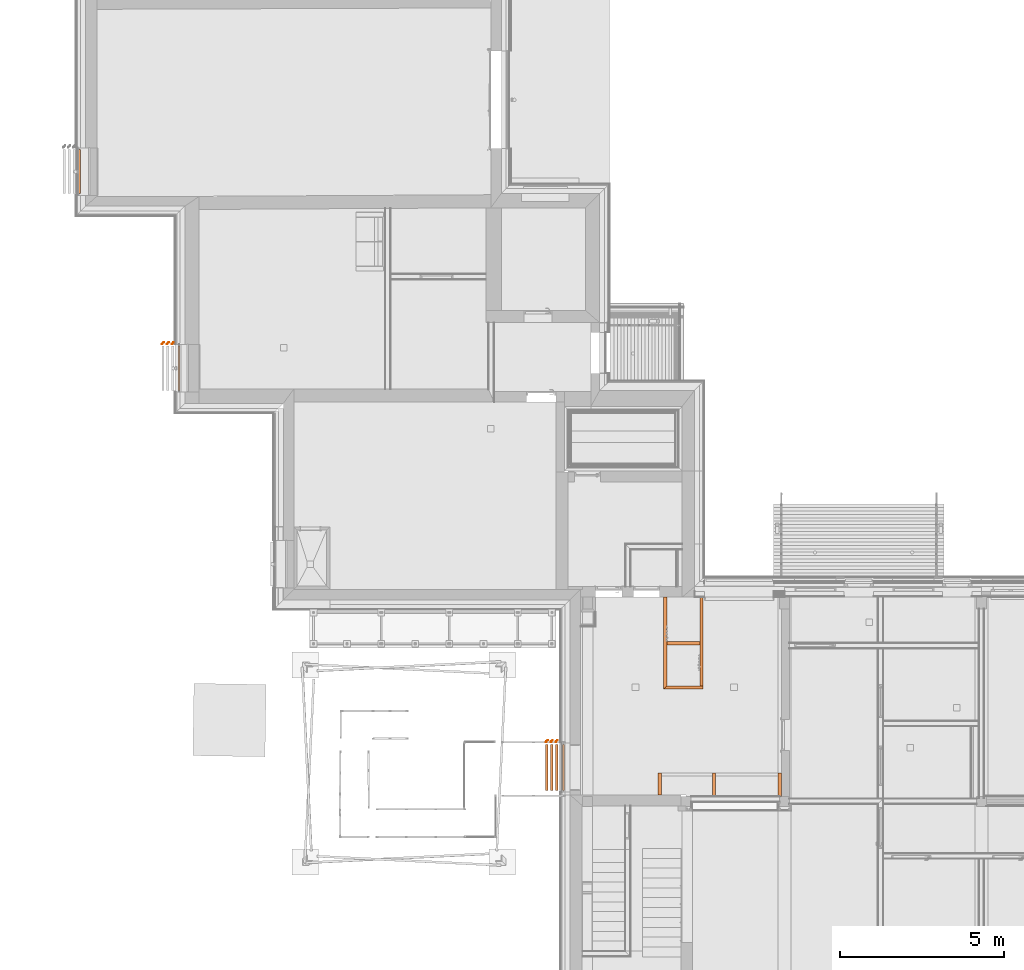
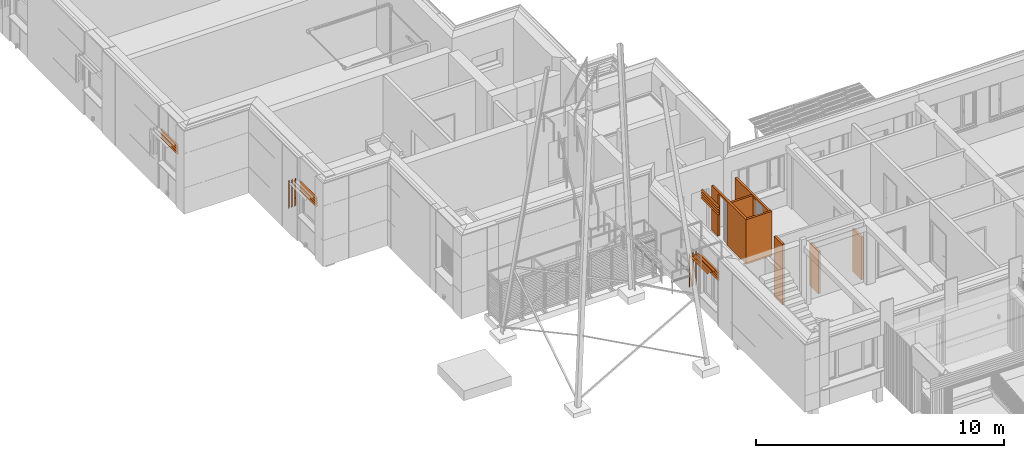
# One storey, part 350 of 418: 14 proxies, 2 openings.
"""IFC2X3 building model written with IfcOpenShell, lengths in millimetres."""

from ifc_helpers import new_model, entity, si_unit, converted_unit, derived_unit, money_unit, direction, frame, origin_with_axes, origin_2d_with_axis, place, context, subcontext, project, spatial, polyline, rectangle, outline, extrude, faceted_brep, source, transform, mapped, material, type_object, element, save


model = new_model("IFC2X3")

# Units and contexts
model_context = context("Model", 3, precision=0.01, world=origin_with_axes(), true_north=direction((0.0, 1.0)))
body_context = subcontext(model_context, "Body", "Model", "MODEL_VIEW")
ifc_project = project(units=[si_unit("LENGTHUNIT", "METRE", prefix="MILLI"), si_unit("AREAUNIT", "SQUARE_METRE"), si_unit("VOLUMEUNIT", "CUBIC_METRE"), converted_unit("PLANEANGLEUNIT", "DEGREE", entity("IfcPlaneAngleMeasure", 0.0174532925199), si_unit("PLANEANGLEUNIT", "RADIAN"), dimensions=[0, 0, 0, 0, 0, 0, 0]), si_unit("SOLIDANGLEUNIT", "STERADIAN"), money_unit("EUR"), converted_unit("TIMEUNIT", "Year", entity("IfcTimeMeasure", 31556926.0), si_unit("TIMEUNIT", "SECOND"), dimensions=[0, 0, 1, 0, 0, 0, 0]), si_unit("MASSUNIT", "GRAM", prefix="KILO"), si_unit("THERMODYNAMICTEMPERATUREUNIT", "DEGREE_CELSIUS"), si_unit("LUMINOUSINTENSITYUNIT", "LUMEN"), si_unit("ENERGYUNIT", "JOULE", prefix="MEGA"), derived_unit("THERMALCONDUCTANCEUNIT", [(si_unit("POWERUNIT", "WATT"), 1), (si_unit("LENGTHUNIT", "METRE"), -1), (si_unit("THERMODYNAMICTEMPERATUREUNIT", "KELVIN"), -1)]), derived_unit("SPECIFICHEATCAPACITYUNIT", [(si_unit("ENERGYUNIT", "JOULE"), 1), (si_unit("MASSUNIT", "GRAM", prefix="KILO"), -1), (si_unit("THERMODYNAMICTEMPERATUREUNIT", "KELVIN"), -1)]), derived_unit("MASSDENSITYUNIT", [(si_unit("MASSUNIT", "GRAM", prefix="KILO"), 1), (si_unit("VOLUMEUNIT", "CUBIC_METRE"), -1)])], contexts=[model_context])

# Site, building, storey
site_placement = place(None, origin_with_axes())
site = spatial("IfcSite", under=ifc_project, at=site_placement, Name="Paldiski mnt 245/1, Tallinn, Harjumaa", CompositionType="COMPLEX")
building_placement = place(site_placement, origin_with_axes())
building = spatial("IfcBuilding", under=site, at=building_placement, Name="RKAS Hoone üldnimetus (kasutust iseloomustav) -> IFC Project Manager -> SOLIBRI", CompositionType="ELEMENT")
storey_placement = place(building_placement, origin_with_axes())
storey = spatial("IfcBuildingStorey", under=building, at=storey_placement, Name="Esimene korrus", CompositionType="ELEMENT", Elevation=0.0)

# Proxies
ifc_material = material(Name="Puit - Konstruktsioon")
building_element_proxy_type_1 = type_object("IfcBuildingElementProxyType", Name="Puit - Konstruktsioon 100", PredefinedType="NOTDEFINED")
proxy_1_placement = place(storey_placement, frame((-45291.82036, -6130.08408706, 0.0), z_axis=(0.0, 0.0, 1.0), x_axis=(0.0, 1.0, 0.0)))
element("IfcBuildingElementProxy", 1, at=proxy_1_placement, inside=storey, type_object=building_element_proxy_type_1, material=ifc_material, Name="SM-3", context=body_context, shape_type="SweptSolid", body=[
    extrude(outline(polyline([(0.0, -100.0), (670.06255987, -100.0), (670.06255987, 0.0), (0.0, 0.0), (0.0, -100.0)])), origin_with_axes(), (0.0, 0.0, 1.0), 3000.0),
])
proxy_2_placement = place(storey_placement, frame((-43537.214149, -6180.0, 0.0), z_axis=(0.0, 0.0, 1.0), x_axis=(0.0, 1.0, 0.0)))
element("IfcBuildingElementProxy", 2, at=proxy_2_placement, inside=storey, type_object=building_element_proxy_type_1, material=ifc_material, Name="SM-3", context=body_context, shape_type="SweptSolid", body=[
    extrude(outline(polyline([(0.0, 0.0), (719.978467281, 0.0), (719.978467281, 100.0), (0.0, 100.0), (0.0, 0.0)])), origin_with_axes(), (0.0, 0.0, 1.0), 2100.0),
])
proxy_3_placement = place(storey_placement, frame((-41539.9999633, -6180.00001833, 0.0), z_axis=(0.0, 0.0, 1.0), x_axis=(-2.06862931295e-08, 1.0, 0.0)))
element("IfcBuildingElementProxy", 3, at=proxy_3_placement, inside=storey, type_object=building_element_proxy_type_1, material=ifc_material, Name="SM-3", context=body_context, shape_type="SweptSolid", body=[
    extrude(outline(polyline([(0.0, 0.0), (719.978499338, 0.0), (719.978499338, 100.0), (0.0, 100.0), (0.0, 0.0)])), origin_with_axes(), (0.0, 0.0, 1.0), 2100.0),
])
proxy_4_placement = place(storey_placement, frame((-43922.394867, -1460.0, 0.0), z_axis=(0.0, 0.0, 1.0), x_axis=(-1.0, 0.0, 0.0)))
element("IfcBuildingElementProxy", 4, at=proxy_4_placement, inside=storey, type_object=building_element_proxy_type_1, material=ifc_material, Name="SS-63", context=body_context, shape_type="SweptSolid", body=[
    extrude(outline(polyline([(100.0, 0.0), (1100.0, 0.0), (1100.0, 100.0), (100.0, 100.0), (100.0, 0.0)])), origin_with_axes(), (0.0, 0.0, 1.0), 2200.0),
])

# Proxy, opening
proxy_5_placement = place(storey_placement, frame((-43922.394867, -2810.0, 0.0), z_axis=(0.0, 0.0, 1.0), x_axis=(0.0, 1.0, 0.0)))
proxy_5 = element("IfcBuildingElementProxy", 5, at=proxy_5_placement, inside=storey, type_object=building_element_proxy_type_1, material=ifc_material, Name="SM-3", context=body_context, shape_type="SweptSolid", body=[
    extrude(outline(polyline([(0.0, 0.0), (2699.29055164, 0.0), (2699.29055164, 100.0), (0.0, 100.0), (0.0, 0.0)])), origin_with_axes(), (0.0, 0.0, 1.0), 2200.0),
])
opening_1_placement = place(proxy_5_placement, frame((858.298492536, 0.0, 0.0), z_axis=(0.0, 0.0, 1.0), x_axis=(1.0, 0.0, 0.0)))
element("IfcOpeningElement", 6, at=opening_1_placement, cuts=proxy_5, Name="AVA", context=body_context, shape_type="SweptSolid", body=[
    extrude(rectangle(XDim=750.0, YDim=2100.0, at=origin_2d_with_axis()), frame((0.0, 100.0, 1050.0), z_axis=(0.0, -1.0, 0.0), x_axis=(1.0, 0.0, 0.0)), (0.0, 0.0, -1.0), 100.0),
    extrude(rectangle(XDim=750.0, YDim=2100.0, at=origin_2d_with_axis()), frame((0.0, 100.0, 1050.0), z_axis=(0.0, 1.0, 0.0), x_axis=(1.0, 0.0, 0.0)), (0.0, 0.0, -1.0), 100.0),
])

# Proxy
proxy_6_placement = place(storey_placement, frame((-45122.394867, -2910.0, 0.0), z_axis=(0.0, 0.0, 1.0), x_axis=(1.0, 0.0, 0.0)))
element("IfcBuildingElementProxy", 7, at=proxy_6_placement, inside=storey, type_object=building_element_proxy_type_1, material=ifc_material, Name="SM-3", context=body_context, shape_type="SweptSolid", body=[
    extrude(outline(polyline([(0.0, 0.0), (1200.0, 0.0), (1200.0, 100.0), (100.0, 100.0), (0.0, 0.0)])), origin_with_axes(), (0.0, 0.0, 1.0), 2200.0),
])

# Proxy, opening
proxy_7_placement = place(storey_placement, frame((-45122.394867, -109.999999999, 0.0), z_axis=(0.0, 0.0, 1.0), x_axis=(0.0, -1.0, 0.0)))
proxy_7 = element("IfcBuildingElementProxy", 8, at=proxy_7_placement, inside=storey, type_object=building_element_proxy_type_1, material=ifc_material, Name="SS-59", context=body_context, shape_type="SweptSolid", body=[
    extrude(outline(polyline([(0.0, 0.0), (2800.0, 0.0), (2700.0, 100.0), (0.0, 100.0), (0.0, 0.0)])), origin_with_axes(), (0.0, 0.0, 1.0), 2200.0),
])
opening_2_placement = place(proxy_7_placement, frame((883.082475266, 0.0, 0.0), z_axis=(0.0, 0.0, 1.0), x_axis=(1.0, 0.0, 0.0)))
element("IfcOpeningElement", 9, at=opening_2_placement, cuts=proxy_7, Name="AVA", context=body_context, shape_type="SweptSolid", body=[
    extrude(rectangle(XDim=750.0, YDim=2100.0, at=origin_2d_with_axis()), frame((0.0, 100.0, 1050.0), z_axis=(0.0, -1.0, 0.0), x_axis=(1.0, 0.0, 0.0)), (0.0, 0.0, -1.0), 100.0),
    extrude(rectangle(XDim=750.0, YDim=2100.0, at=origin_2d_with_axis()), frame((0.0, 100.0, 1050.0), z_axis=(0.0, 1.0, 0.0), x_axis=(1.0, 0.0, 0.0)), (0.0, 0.0, -1.0), 100.0),
])

# Proxies
building_element_proxy_type_2 = type_object("IfcBuildingElementProxyType", Name="Solar Shade Straight 17", PredefinedType="NOTDEFINED")
shared_shape_1 = source(origin_with_axes(), body_context, "Body", "Brep", [
    faceted_brep([(-50.0, -24.0727513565, 78.7867965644), (-1399.99991183, -24.0727513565, 78.7867965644), (-1399.99991183, -34.6793530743, 91.7504208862), (-50.0, -34.6793530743, 91.7504208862), (-50.0, -14.6446609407, 64.6446609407), (-1399.99991183, -14.6446609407, 64.6446609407), (-1399.99991183, -28.7867965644, 74.0727513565), (-1399.99991183, -41.7504208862, 84.6793530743), (-1399.99991183, -65.3206469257, 108.249579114), (-1399.99991183, -75.9272486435, 121.213203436), (-1399.99991183, -85.3553390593, 135.355339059), (-1399.99991183, -71.2132034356, 125.927248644), (-1399.99991183, -58.2495791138, 115.320646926), (-50.0, -58.2495791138, 115.320646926), (-50.0, -71.2132034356, 125.927248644), (-50.0, -85.3553390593, 135.355339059), (-50.0, -75.9272486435, 121.213203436), (-50.0, -65.3206469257, 108.249579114), (-50.0, -41.7504208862, 84.6793530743), (-50.0, -28.7867965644, 74.0727513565)], [[[0, 1, 2, 3]], [[4, 5, 1, 0]], [[1, 5, 6, 7, 8, 9, 10, 11, 12, 2]], [[3, 2, 12, 13]], [[0, 3, 13, 14, 15, 16, 17, 18, 19, 4]], [[19, 6, 5, 4]], [[18, 7, 6, 19]], [[17, 8, 7, 18]], [[16, 9, 8, 17]], [[15, 10, 9, 16]], [[14, 11, 10, 15]], [[13, 12, 11, 14]]]),
    faceted_brep([(-50.0, -24.0727513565, 203.786796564), (-1399.99991183, -24.0727513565, 203.786796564), (-1399.99991183, -34.6793530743, 216.750420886), (-50.0, -34.6793530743, 216.750420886), (-50.0, -14.6446609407, 189.644660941), (-1399.99991183, -14.6446609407, 189.644660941), (-1399.99991183, -28.7867965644, 199.072751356), (-1399.99991183, -41.7504208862, 209.679353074), (-1399.99991183, -65.3206469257, 233.249579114), (-1399.99991183, -75.9272486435, 246.213203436), (-1399.99991183, -85.3553390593, 260.355339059), (-1399.99991183, -71.2132034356, 250.927248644), (-1399.99991183, -58.2495791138, 240.320646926), (-50.0, -58.2495791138, 240.320646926), (-50.0, -71.2132034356, 250.927248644), (-50.0, -85.3553390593, 260.355339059), (-50.0, -75.9272486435, 246.213203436), (-50.0, -65.3206469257, 233.249579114), (-50.0, -41.7504208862, 209.679353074), (-50.0, -28.7867965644, 199.072751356)], [[[0, 1, 2, 3]], [[4, 5, 1, 0]], [[1, 5, 6, 7, 8, 9, 10, 11, 12, 2]], [[3, 2, 12, 13]], [[0, 3, 13, 14, 15, 16, 17, 18, 19, 4]], [[19, 6, 5, 4]], [[18, 7, 6, 19]], [[17, 8, 7, 18]], [[16, 9, 8, 17]], [[15, 10, 9, 16]], [[14, 11, 10, 15]], [[13, 12, 11, 14]]]),
    faceted_brep([(-50.0, -24.0727513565, 328.786796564), (-1399.99991183, -24.0727513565, 328.786796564), (-1399.99991183, -34.6793530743, 341.750420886), (-50.0, -34.6793530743, 341.750420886), (-50.0, -14.6446609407, 314.644660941), (-1399.99991183, -14.6446609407, 314.644660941), (-1399.99991183, -28.7867965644, 324.072751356), (-1399.99991183, -41.7504208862, 334.679353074), (-1399.99991183, -65.3206469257, 358.249579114), (-1399.99991183, -75.9272486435, 371.213203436), (-1399.99991183, -85.3553390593, 385.355339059), (-1399.99991183, -71.2132034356, 375.927248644), (-1399.99991183, -58.2495791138, 365.320646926), (-50.0, -58.2495791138, 365.320646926), (-50.0, -71.2132034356, 375.927248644), (-50.0, -85.3553390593, 385.355339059), (-50.0, -75.9272486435, 371.213203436), (-50.0, -65.3206469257, 358.249579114), (-50.0, -41.7504208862, 334.679353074), (-50.0, -28.7867965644, 324.072751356)], [[[0, 1, 2, 3]], [[4, 5, 1, 0]], [[1, 5, 6, 7, 8, 9, 10, 11, 12, 2]], [[3, 2, 12, 13]], [[0, 3, 13, 14, 15, 16, 17, 18, 19, 4]], [[19, 6, 5, 4]], [[18, 7, 6, 19]], [[17, 8, 7, 18]], [[16, 9, 8, 17]], [[15, 10, 9, 16]], [[14, 11, 10, 15]], [[13, 12, 11, 14]]]),
    faceted_brep([(-50.0, -24.0727513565, 453.786796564), (-1399.99991183, -24.0727513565, 453.786796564), (-1399.99991183, -34.6793530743, 466.750420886), (-50.0, -34.6793530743, 466.750420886), (-50.0, -14.6446609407, 439.644660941), (-1399.99991183, -14.6446609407, 439.644660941), (-1399.99991183, -28.7867965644, 449.072751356), (-1399.99991183, -41.7504208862, 459.679353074), (-1399.99991183, -65.3206469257, 483.249579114), (-1399.99991183, -75.9272486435, 496.213203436), (-1399.99991183, -85.3553390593, 510.355339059), (-1399.99991183, -71.2132034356, 500.927248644), (-1399.99991183, -58.2495791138, 490.320646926), (-50.0, -58.2495791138, 490.320646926), (-50.0, -71.2132034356, 500.927248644), (-50.0, -85.3553390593, 510.355339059), (-50.0, -75.9272486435, 496.213203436), (-50.0, -65.3206469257, 483.249579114), (-50.0, -41.7504208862, 459.679353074), (-50.0, -28.7867965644, 449.072751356)], [[[0, 1, 2, 3]], [[4, 5, 1, 0]], [[1, 5, 6, 7, 8, 9, 10, 11, 12, 2]], [[3, 2, 12, 13]], [[0, 3, 13, 14, 15, 16, 17, 18, 19, 4]], [[19, 6, 5, 4]], [[18, 7, 6, 19]], [[17, 8, 7, 18]], [[16, 9, 8, 17]], [[15, 10, 9, 16]], [[14, 11, 10, 15]], [[13, 12, 11, 14]]]),
])
for number, where, z_axis, x_axis in (
    (10, (-62965.000034, 13579.8285563, 2454.64464055), (0.0, 0.0, 1.0), (0.0, 1.0, 0.0)),
    (11, (-59935.9999232, 7590.01121302, 2429.64466094), (0.0, 0.0, 1.0), (0.0, 1.0, 0.0)),
):
    element("IfcBuildingElementProxy", number, at=place(storey_placement, frame(where, z_axis=z_axis, x_axis=x_axis)), inside=storey, type_object=building_element_proxy_type_2, Name="Päikesezalusii", context=body_context, shape_type="MappedRepresentation", body=[
        mapped(shared_shape_1, transform((0.0, 0.0, 0.0))),
    ])
shared_shape_2 = source(origin_with_axes(), body_context, "Body", "Brep", [
    faceted_brep([(-50.0, -24.0727513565, 78.7867965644), (-1449.99983467, -24.0727513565, 78.7867965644), (-1449.99983467, -34.6793530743, 91.7504208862), (-50.0, -34.6793530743, 91.7504208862), (-50.0, -14.6446609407, 64.6446609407), (-1449.99983467, -14.6446609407, 64.6446609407), (-1449.99983467, -28.7867965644, 74.0727513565), (-1449.99983467, -41.7504208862, 84.6793530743), (-1449.99983467, -65.3206469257, 108.249579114), (-1449.99983467, -75.9272486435, 121.213203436), (-1449.99983467, -85.3553390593, 135.355339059), (-1449.99983467, -71.2132034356, 125.927248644), (-1449.99983467, -58.2495791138, 115.320646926), (-50.0, -58.2495791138, 115.320646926), (-50.0, -71.2132034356, 125.927248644), (-50.0, -85.3553390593, 135.355339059), (-50.0, -75.9272486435, 121.213203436), (-50.0, -65.3206469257, 108.249579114), (-50.0, -41.7504208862, 84.6793530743), (-50.0, -28.7867965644, 74.0727513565)], [[[0, 1, 2, 3]], [[4, 5, 1, 0]], [[1, 5, 6, 7, 8, 9, 10, 11, 12, 2]], [[3, 2, 12, 13]], [[0, 3, 13, 14, 15, 16, 17, 18, 19, 4]], [[19, 6, 5, 4]], [[18, 7, 6, 19]], [[17, 8, 7, 18]], [[16, 9, 8, 17]], [[15, 10, 9, 16]], [[14, 11, 10, 15]], [[13, 12, 11, 14]]]),
    faceted_brep([(-50.0, -24.0727513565, 203.786796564), (-1449.99983467, -24.0727513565, 203.786796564), (-1449.99983467, -34.6793530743, 216.750420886), (-50.0, -34.6793530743, 216.750420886), (-50.0, -14.6446609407, 189.644660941), (-1449.99983467, -14.6446609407, 189.644660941), (-1449.99983467, -28.7867965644, 199.072751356), (-1449.99983467, -41.7504208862, 209.679353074), (-1449.99983467, -65.3206469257, 233.249579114), (-1449.99983467, -75.9272486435, 246.213203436), (-1449.99983467, -85.3553390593, 260.355339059), (-1449.99983467, -71.2132034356, 250.927248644), (-1449.99983467, -58.2495791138, 240.320646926), (-50.0, -58.2495791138, 240.320646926), (-50.0, -71.2132034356, 250.927248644), (-50.0, -85.3553390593, 260.355339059), (-50.0, -75.9272486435, 246.213203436), (-50.0, -65.3206469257, 233.249579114), (-50.0, -41.7504208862, 209.679353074), (-50.0, -28.7867965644, 199.072751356)], [[[0, 1, 2, 3]], [[4, 5, 1, 0]], [[1, 5, 6, 7, 8, 9, 10, 11, 12, 2]], [[3, 2, 12, 13]], [[0, 3, 13, 14, 15, 16, 17, 18, 19, 4]], [[19, 6, 5, 4]], [[18, 7, 6, 19]], [[17, 8, 7, 18]], [[16, 9, 8, 17]], [[15, 10, 9, 16]], [[14, 11, 10, 15]], [[13, 12, 11, 14]]]),
    faceted_brep([(-50.0, -24.0727513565, 328.786796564), (-1449.99983467, -24.0727513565, 328.786796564), (-1449.99983467, -34.6793530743, 341.750420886), (-50.0, -34.6793530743, 341.750420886), (-50.0, -14.6446609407, 314.644660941), (-1449.99983467, -14.6446609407, 314.644660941), (-1449.99983467, -28.7867965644, 324.072751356), (-1449.99983467, -41.7504208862, 334.679353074), (-1449.99983467, -65.3206469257, 358.249579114), (-1449.99983467, -75.9272486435, 371.213203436), (-1449.99983467, -85.3553390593, 385.355339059), (-1449.99983467, -71.2132034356, 375.927248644), (-1449.99983467, -58.2495791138, 365.320646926), (-50.0, -58.2495791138, 365.320646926), (-50.0, -71.2132034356, 375.927248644), (-50.0, -85.3553390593, 385.355339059), (-50.0, -75.9272486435, 371.213203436), (-50.0, -65.3206469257, 358.249579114), (-50.0, -41.7504208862, 334.679353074), (-50.0, -28.7867965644, 324.072751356)], [[[0, 1, 2, 3]], [[4, 5, 1, 0]], [[1, 5, 6, 7, 8, 9, 10, 11, 12, 2]], [[3, 2, 12, 13]], [[0, 3, 13, 14, 15, 16, 17, 18, 19, 4]], [[19, 6, 5, 4]], [[18, 7, 6, 19]], [[17, 8, 7, 18]], [[16, 9, 8, 17]], [[15, 10, 9, 16]], [[14, 11, 10, 15]], [[13, 12, 11, 14]]]),
    faceted_brep([(-50.0, -24.0727513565, 453.786796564), (-1449.99983467, -24.0727513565, 453.786796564), (-1449.99983467, -34.6793530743, 466.750420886), (-50.0, -34.6793530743, 466.750420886), (-50.0, -14.6446609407, 439.644660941), (-1449.99983467, -14.6446609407, 439.644660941), (-1449.99983467, -28.7867965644, 449.072751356), (-1449.99983467, -41.7504208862, 459.679353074), (-1449.99983467, -65.3206469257, 483.249579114), (-1449.99983467, -75.9272486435, 496.213203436), (-1449.99983467, -85.3553390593, 510.355339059), (-1449.99983467, -71.2132034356, 500.927248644), (-1449.99983467, -58.2495791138, 490.320646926), (-50.0, -58.2495791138, 490.320646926), (-50.0, -71.2132034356, 500.927248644), (-50.0, -85.3553390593, 510.355339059), (-50.0, -75.9272486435, 496.213203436), (-50.0, -65.3206469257, 483.249579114), (-50.0, -41.7504208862, 459.679353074), (-50.0, -28.7867965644, 449.072751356)], [[[0, 1, 2, 3]], [[4, 5, 1, 0]], [[1, 5, 6, 7, 8, 9, 10, 11, 12, 2]], [[3, 2, 12, 13]], [[0, 3, 13, 14, 15, 16, 17, 18, 19, 4]], [[19, 6, 5, 4]], [[18, 7, 6, 19]], [[17, 8, 7, 18]], [[16, 9, 8, 17]], [[15, 10, 9, 16]], [[14, 11, 10, 15]], [[13, 12, 11, 14]]]),
])
for number, where, z_axis, x_axis in (
    (12, (-48224.9999598, -4550.08423139, 5314.00502483), (0.0, 0.0, 1.0), (0.0, 1.0, 0.0)),
    (13, (-48224.9999598, -4550.08423139, 2076.00504169), (0.0, 0.0, 1.0), (0.0, 1.0, 0.0)),
):
    element("IfcBuildingElementProxy", number, at=place(storey_placement, frame(where, z_axis=z_axis, x_axis=x_axis)), inside=storey, type_object=building_element_proxy_type_2, Name="Päikesezalusii", context=body_context, shape_type="MappedRepresentation", body=[
        mapped(shared_shape_2, transform((0.0, 0.0, 0.0))),
    ])
shared_shape_3 = source(origin_with_axes(), body_context, "Body", "Brep", [
    faceted_brep([(-74.0727513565, -28.7867965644, 25.0), (-74.0727513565, -28.7867965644, 1325.0), (-84.6793530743, -41.7504208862, 1325.0), (-84.6793530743, -41.7504208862, 25.0), (-64.6446609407, -14.6446609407, 25.0), (-64.6446609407, -14.6446609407, 1325.0), (-78.7867965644, -24.0727513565, 1325.0), (-91.7504208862, -34.6793530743, 1325.0), (-115.320646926, -58.2495791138, 1325.0), (-125.927248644, -71.2132034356, 1325.0), (-135.355339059, -85.3553390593, 1325.0), (-121.213203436, -75.9272486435, 1325.0), (-108.249579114, -65.3206469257, 1325.0), (-108.249579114, -65.3206469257, 25.0), (-121.213203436, -75.9272486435, 25.0), (-135.355339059, -85.3553390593, 25.0), (-125.927248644, -71.2132034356, 25.0), (-115.320646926, -58.2495791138, 25.0), (-91.7504208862, -34.6793530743, 25.0), (-78.7867965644, -24.0727513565, 25.0)], [[[0, 1, 2, 3]], [[4, 5, 1, 0]], [[1, 5, 6, 7, 8, 9, 10, 11, 12, 2]], [[3, 2, 12, 13]], [[0, 3, 13, 14, 15, 16, 17, 18, 19, 4]], [[19, 6, 5, 4]], [[18, 7, 6, 19]], [[17, 8, 7, 18]], [[16, 9, 8, 17]], [[15, 10, 9, 16]], [[14, 11, 10, 15]], [[13, 12, 11, 14]]]),
    faceted_brep([(-224.072751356, -28.7867965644, 25.0), (-224.072751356, -28.7867965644, 1325.0), (-234.679353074, -41.7504208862, 1325.0), (-234.679353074, -41.7504208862, 25.0), (-214.644660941, -14.6446609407, 25.0), (-214.644660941, -14.6446609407, 1325.0), (-228.786796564, -24.0727513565, 1325.0), (-241.750420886, -34.6793530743, 1325.0), (-265.320646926, -58.2495791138, 1325.0), (-275.927248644, -71.2132034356, 1325.0), (-285.355339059, -85.3553390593, 1325.0), (-271.213203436, -75.9272486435, 1325.0), (-258.249579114, -65.3206469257, 1325.0), (-258.249579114, -65.3206469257, 25.0), (-271.213203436, -75.9272486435, 25.0), (-285.355339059, -85.3553390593, 25.0), (-275.927248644, -71.2132034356, 25.0), (-265.320646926, -58.2495791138, 25.0), (-241.750420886, -34.6793530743, 25.0), (-228.786796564, -24.0727513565, 25.0)], [[[0, 1, 2, 3]], [[4, 5, 1, 0]], [[1, 5, 6, 7, 8, 9, 10, 11, 12, 2]], [[3, 2, 12, 13]], [[0, 3, 13, 14, 15, 16, 17, 18, 19, 4]], [[19, 6, 5, 4]], [[18, 7, 6, 19]], [[17, 8, 7, 18]], [[16, 9, 8, 17]], [[15, 10, 9, 16]], [[14, 11, 10, 15]], [[13, 12, 11, 14]]]),
    faceted_brep([(-374.072751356, -28.7867965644, 25.0), (-374.072751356, -28.7867965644, 1325.0), (-384.679353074, -41.7504208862, 1325.0), (-384.679353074, -41.7504208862, 25.0), (-364.644660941, -14.6446609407, 25.0), (-364.644660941, -14.6446609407, 1325.0), (-378.786796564, -24.0727513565, 1325.0), (-391.750420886, -34.6793530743, 1325.0), (-415.320646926, -58.2495791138, 1325.0), (-425.927248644, -71.2132034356, 1325.0), (-435.355339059, -85.3553390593, 1325.0), (-421.213203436, -75.9272486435, 1325.0), (-408.249579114, -65.3206469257, 1325.0), (-408.249579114, -65.3206469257, 25.0), (-421.213203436, -75.9272486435, 25.0), (-435.355339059, -85.3553390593, 25.0), (-425.927248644, -71.2132034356, 25.0), (-415.320646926, -58.2495791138, 25.0), (-391.750420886, -34.6793530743, 25.0), (-378.786796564, -24.0727513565, 25.0)], [[[0, 1, 2, 3]], [[4, 5, 1, 0]], [[1, 5, 6, 7, 8, 9, 10, 11, 12, 2]], [[3, 2, 12, 13]], [[0, 3, 13, 14, 15, 16, 17, 18, 19, 4]], [[19, 6, 5, 4]], [[18, 7, 6, 19]], [[17, 8, 7, 18]], [[16, 9, 8, 17]], [[15, 10, 9, 16]], [[14, 11, 10, 15]], [[13, 12, 11, 14]]]),
])
proxy_8_placement = place(storey_placement, frame((-59975.3553465, 7675.3667201, 1735.71067875), z_axis=(0.0, 0.0, 1.0), x_axis=(1.0, 0.0, 0.0)))
element("IfcBuildingElementProxy", 14, at=proxy_8_placement, inside=storey, type_object=building_element_proxy_type_2, Name="Päikesezalusii", context=body_context, shape_type="MappedRepresentation", body=[
    mapped(shared_shape_3, transform((0.0, 0.0, 0.0))),
])
shared_shape_4 = source(origin_with_axes(), body_context, "Body", "Brep", [
    faceted_brep([(-74.0727513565, -28.7867965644, 25.0), (-74.0727513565, -28.7867965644, 1625.0), (-84.6793530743, -41.7504208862, 1625.0), (-84.6793530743, -41.7504208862, 25.0), (-64.6446609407, -14.6446609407, 25.0), (-64.6446609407, -14.6446609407, 1625.0), (-78.7867965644, -24.0727513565, 1625.0), (-91.7504208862, -34.6793530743, 1625.0), (-115.320646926, -58.2495791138, 1625.0), (-125.927248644, -71.2132034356, 1625.0), (-135.355339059, -85.3553390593, 1625.0), (-121.213203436, -75.9272486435, 1625.0), (-108.249579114, -65.3206469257, 1625.0), (-108.249579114, -65.3206469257, 25.0), (-121.213203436, -75.9272486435, 25.0), (-135.355339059, -85.3553390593, 25.0), (-125.927248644, -71.2132034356, 25.0), (-115.320646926, -58.2495791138, 25.0), (-91.7504208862, -34.6793530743, 25.0), (-78.7867965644, -24.0727513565, 25.0)], [[[0, 1, 2, 3]], [[4, 5, 1, 0]], [[1, 5, 6, 7, 8, 9, 10, 11, 12, 2]], [[3, 2, 12, 13]], [[0, 3, 13, 14, 15, 16, 17, 18, 19, 4]], [[19, 6, 5, 4]], [[18, 7, 6, 19]], [[17, 8, 7, 18]], [[16, 9, 8, 17]], [[15, 10, 9, 16]], [[14, 11, 10, 15]], [[13, 12, 11, 14]]]),
    faceted_brep([(-224.072751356, -28.7867965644, 25.0), (-224.072751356, -28.7867965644, 1625.0), (-234.679353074, -41.7504208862, 1625.0), (-234.679353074, -41.7504208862, 25.0), (-214.644660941, -14.6446609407, 25.0), (-214.644660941, -14.6446609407, 1625.0), (-228.786796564, -24.0727513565, 1625.0), (-241.750420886, -34.6793530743, 1625.0), (-265.320646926, -58.2495791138, 1625.0), (-275.927248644, -71.2132034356, 1625.0), (-285.355339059, -85.3553390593, 1625.0), (-271.213203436, -75.9272486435, 1625.0), (-258.249579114, -65.3206469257, 1625.0), (-258.249579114, -65.3206469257, 25.0), (-271.213203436, -75.9272486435, 25.0), (-285.355339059, -85.3553390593, 25.0), (-275.927248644, -71.2132034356, 25.0), (-265.320646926, -58.2495791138, 25.0), (-241.750420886, -34.6793530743, 25.0), (-228.786796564, -24.0727513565, 25.0)], [[[0, 1, 2, 3]], [[4, 5, 1, 0]], [[1, 5, 6, 7, 8, 9, 10, 11, 12, 2]], [[3, 2, 12, 13]], [[0, 3, 13, 14, 15, 16, 17, 18, 19, 4]], [[19, 6, 5, 4]], [[18, 7, 6, 19]], [[17, 8, 7, 18]], [[16, 9, 8, 17]], [[15, 10, 9, 16]], [[14, 11, 10, 15]], [[13, 12, 11, 14]]]),
    faceted_brep([(-374.072751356, -28.7867965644, 25.0), (-374.072751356, -28.7867965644, 1625.0), (-384.679353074, -41.7504208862, 1625.0), (-384.679353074, -41.7504208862, 25.0), (-364.644660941, -14.6446609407, 25.0), (-364.644660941, -14.6446609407, 1625.0), (-378.786796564, -24.0727513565, 1625.0), (-391.750420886, -34.6793530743, 1625.0), (-415.320646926, -58.2495791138, 1625.0), (-425.927248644, -71.2132034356, 1625.0), (-435.355339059, -85.3553390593, 1625.0), (-421.213203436, -75.9272486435, 1625.0), (-408.249579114, -65.3206469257, 1625.0), (-408.249579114, -65.3206469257, 25.0), (-421.213203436, -75.9272486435, 25.0), (-435.355339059, -85.3553390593, 25.0), (-425.927248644, -71.2132034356, 25.0), (-415.320646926, -58.2495791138, 25.0), (-391.750420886, -34.6793530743, 25.0), (-378.786796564, -24.0727513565, 25.0)], [[[0, 1, 2, 3]], [[4, 5, 1, 0]], [[1, 5, 6, 7, 8, 9, 10, 11, 12, 2]], [[3, 2, 12, 13]], [[0, 3, 13, 14, 15, 16, 17, 18, 19, 4]], [[19, 6, 5, 4]], [[18, 7, 6, 19]], [[17, 8, 7, 18]], [[16, 9, 8, 17]], [[15, 10, 9, 16]], [[14, 11, 10, 15]], [[13, 12, 11, 14]]]),
])
proxy_9_placement = place(storey_placement, frame((-48280.0, -4446.37347991, 1095.71066979), z_axis=(0.0, 0.0, 1.0), x_axis=(1.0, 0.0, 0.0)))
element("IfcBuildingElementProxy", 15, at=proxy_9_placement, inside=storey, type_object=building_element_proxy_type_2, Name="Päikesezalusii", context=body_context, shape_type="MappedRepresentation", body=[
    mapped(shared_shape_4, transform((0.0, 0.0, 0.0))),
])
shared_shape_5 = source(origin_with_axes(), body_context, "Body", "Brep", [
    faceted_brep([(-74.0727513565, -75.0, -28.7867965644), (-74.0727513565, -1475.0, -28.7867965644), (-84.6793530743, -1475.0, -41.7504208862), (-84.6793530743, -75.0, -41.7504208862), (-64.6446609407, -75.0, -14.6446609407), (-64.6446609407, -1475.0, -14.6446609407), (-78.7867965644, -1475.0, -24.0727513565), (-91.7504208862, -1475.0, -34.6793530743), (-115.320646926, -1475.0, -58.2495791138), (-125.927248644, -1475.0, -71.2132034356), (-135.355339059, -1475.0, -85.3553390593), (-121.213203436, -1475.0, -75.9272486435), (-108.249579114, -1475.0, -65.3206469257), (-108.249579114, -75.0, -65.3206469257), (-121.213203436, -75.0, -75.9272486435), (-135.355339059, -75.0, -85.3553390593), (-125.927248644, -75.0, -71.2132034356), (-115.320646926, -75.0, -58.2495791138), (-91.7504208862, -75.0, -34.6793530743), (-78.7867965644, -75.0, -24.0727513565)], [[[0, 1, 2, 3]], [[4, 5, 1, 0]], [[1, 5, 6, 7, 8, 9, 10, 11, 12, 2]], [[3, 2, 12, 13]], [[0, 3, 13, 14, 15, 16, 17, 18, 19, 4]], [[19, 6, 5, 4]], [[18, 7, 6, 19]], [[17, 8, 7, 18]], [[16, 9, 8, 17]], [[15, 10, 9, 16]], [[14, 11, 10, 15]], [[13, 12, 11, 14]]]),
    faceted_brep([(-224.072751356, -75.0, -28.7867965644), (-224.072751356, -1475.0, -28.7867965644), (-234.679353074, -1475.0, -41.7504208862), (-234.679353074, -75.0, -41.7504208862), (-214.644660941, -75.0, -14.6446609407), (-214.644660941, -1475.0, -14.6446609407), (-228.786796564, -1475.0, -24.0727513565), (-241.750420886, -1475.0, -34.6793530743), (-265.320646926, -1475.0, -58.2495791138), (-275.927248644, -1475.0, -71.2132034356), (-285.355339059, -1475.0, -85.3553390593), (-271.213203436, -1475.0, -75.9272486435), (-258.249579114, -1475.0, -65.3206469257), (-258.249579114, -75.0, -65.3206469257), (-271.213203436, -75.0, -75.9272486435), (-285.355339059, -75.0, -85.3553390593), (-275.927248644, -75.0, -71.2132034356), (-265.320646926, -75.0, -58.2495791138), (-241.750420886, -75.0, -34.6793530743), (-228.786796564, -75.0, -24.0727513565)], [[[0, 1, 2, 3]], [[4, 5, 1, 0]], [[1, 5, 6, 7, 8, 9, 10, 11, 12, 2]], [[3, 2, 12, 13]], [[0, 3, 13, 14, 15, 16, 17, 18, 19, 4]], [[19, 6, 5, 4]], [[18, 7, 6, 19]], [[17, 8, 7, 18]], [[16, 9, 8, 17]], [[15, 10, 9, 16]], [[14, 11, 10, 15]], [[13, 12, 11, 14]]]),
    faceted_brep([(-374.072751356, -75.0, -28.7867965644), (-374.072751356, -1475.0, -28.7867965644), (-384.679353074, -1475.0, -41.7504208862), (-384.679353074, -75.0, -41.7504208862), (-364.644660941, -75.0, -14.6446609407), (-364.644660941, -1475.0, -14.6446609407), (-378.786796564, -1475.0, -24.0727513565), (-391.750420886, -1475.0, -34.6793530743), (-415.320646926, -1475.0, -58.2495791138), (-425.927248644, -1475.0, -71.2132034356), (-435.355339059, -1475.0, -85.3553390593), (-421.213203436, -1475.0, -75.9272486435), (-408.249579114, -1475.0, -65.3206469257), (-408.249579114, -75.0, -65.3206469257), (-421.213203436, -75.0, -75.9272486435), (-435.355339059, -75.0, -85.3553390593), (-425.927248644, -75.0, -71.2132034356), (-415.320646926, -75.0, -58.2495791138), (-391.750420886, -75.0, -34.6793530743), (-378.786796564, -75.0, -24.0727513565)], [[[0, 1, 2, 3]], [[4, 5, 1, 0]], [[1, 5, 6, 7, 8, 9, 10, 11, 12, 2]], [[3, 2, 12, 13]], [[0, 3, 13, 14, 15, 16, 17, 18, 19, 4]], [[19, 6, 5, 4]], [[18, 7, 6, 19]], [[17, 8, 7, 18]], [[16, 9, 8, 17]], [[15, 10, 9, 16]], [[14, 11, 10, 15]], [[13, 12, 11, 14]]]),
])
proxy_10_placement = place(storey_placement, frame((-48280.0, -4525.08423094, 2735.35533906), z_axis=(0.0, 0.0, 1.0), x_axis=(1.0, 0.0, 0.0)))
element("IfcBuildingElementProxy", 16, at=proxy_10_placement, inside=storey, type_object=building_element_proxy_type_2, Name="Päikesezalusii", context=body_context, shape_type="MappedRepresentation", body=[
    mapped(shared_shape_5, transform((0.0, 0.0, 0.0))),
])

save(model, "model.ifc")
